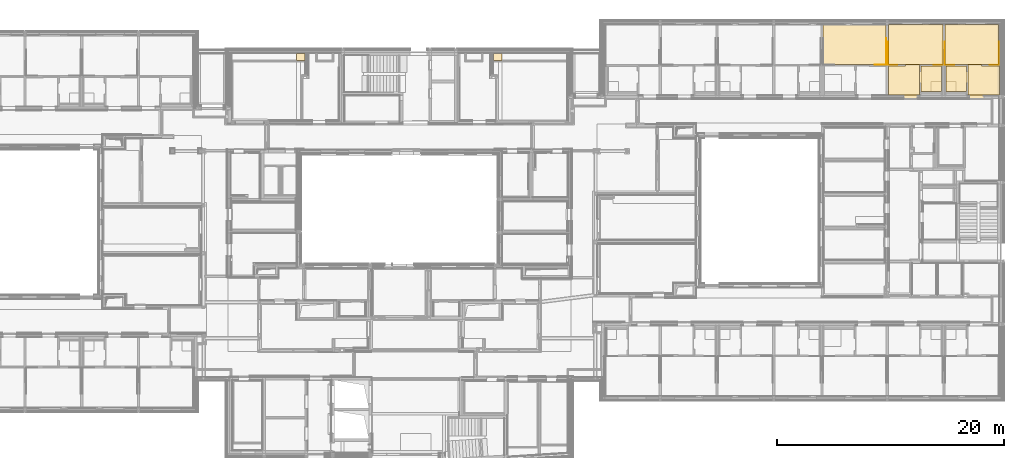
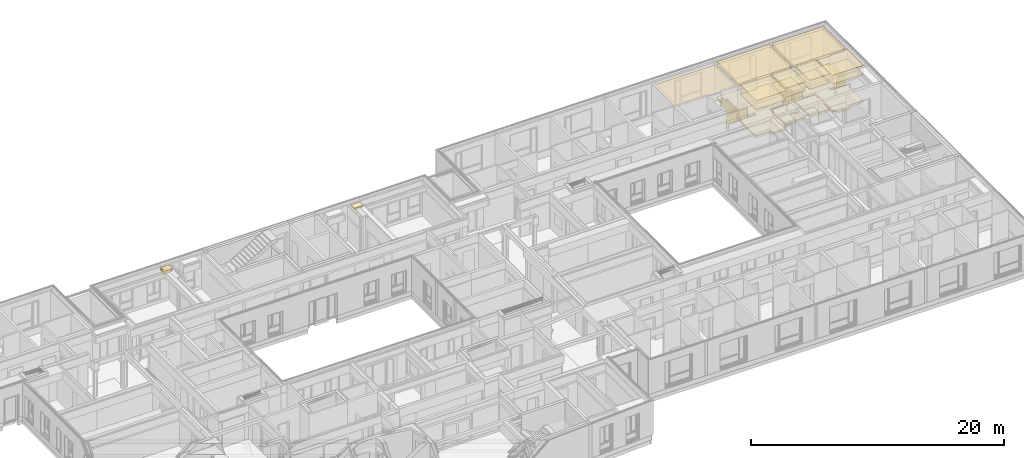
# One storey, part 190 of 207: 42 coverings.
"""IFC4 building model written with IfcOpenShell, lengths in metres."""

from ifc_helpers import new_model, entity, si_unit, converted_unit, derived_unit, frame, frame_2d, origin, origin_with_axes, place, context, subcontext, project, spatial, polyline, rectangle, outline, extrude, material, layer, layer_set, layer_usage, element, save


model = new_model("IFC4")

# Units and contexts
model_context = context("Model", 3, precision=1e-05, world=origin())
body_context = subcontext(model_context, "Body", "Model", "MODEL_VIEW")
ifc_project = project(units=[si_unit("LENGTHUNIT", "METRE"), si_unit("AREAUNIT", "SQUARE_METRE"), si_unit("VOLUMEUNIT", "CUBIC_METRE"), si_unit("MASSUNIT", "GRAM", prefix="KILO"), converted_unit("PLANEANGLEUNIT", "DEGREE", entity("IfcPlaneAngleMeasure", 0.0174532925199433), si_unit("PLANEANGLEUNIT", "RADIAN"), dimensions=[0, 0, 0, 0, 0, 0, 0]), derived_unit("THERMALTRANSMITTANCEUNIT", [(si_unit("POWERUNIT", "WATT"), 1), (si_unit("THERMODYNAMICTEMPERATUREUNIT", "KELVIN"), -1), (si_unit("LENGTHUNIT", "METRE"), -2)]), derived_unit("VOLUMETRICFLOWRATEUNIT", [(si_unit("LENGTHUNIT", "METRE"), 3), (converted_unit("TIMEUNIT", "hour", entity("IfcTimeMeasure", 3600.0), si_unit("TIMEUNIT", "SECOND"), dimensions=[0, 0, 1, 0, 0, 0, 0]), -1), (si_unit("LENGTHUNIT", "METRE"), -1)])], contexts=[model_context])

# Site, building, storey, space
site_placement = place(None, origin())
site = spatial("IfcSite", under=ifc_project, at=site_placement, Name="Psychiatrie Neubau Wunstorf", CompositionType="ELEMENT")
building_placement = place(site_placement, origin())
building = spatial("IfcBuilding", under=site, at=building_placement, Name="Neubau H2 Stationsgebäude", CompositionType="ELEMENT")
storey_placement = place(building_placement, frame((0.0, 0.0, -0.2)))
storey = spatial("IfcBuildingStorey", under=building, at=storey_placement, Name="H2 Ebene 0", CompositionType="ELEMENT", Elevation=-0.2)
space_1_placement = place(storey_placement, frame((101.175, 25.6995, 0.0)))
space_1 = spatial("IfcSpace", under=storey, at=space_1_placement, Name="WUN-H2-E00-074a", CompositionType="ELEMENT")

# Coverings
ifc_material_1 = material(Name="Fl1")
ifc_layer_1 = layer(ifc_material_1, 0.2)
ifc_layer_set_1 = layer_set([ifc_layer_1])
ifc_layer_usage_1 = layer_usage(ifc_layer_set_1, "AXIS3", "POSITIVE", 0.0)
covering_1_placement = place(space_1_placement, origin())
element("IfcCovering", 1, at=covering_1_placement, inside=space_1, material=ifc_layer_usage_1, Name="Fliesen", PredefinedType="FLOORING", context=body_context, shape_type="SweptSolid", body=[
    extrude(rectangle(XDim=0.125, YDim=1.01, at=frame_2d((-0.0625, -0.505), x_axis=(-1.0, 0.0))), frame((1.92500000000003, 1.76500000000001, 0.0), z_axis=(0.0, 0.0, 1.0), x_axis=(1.0, 0.0, 0.0)), (0.0, 0.0, 1.0), 0.2),
    extrude(outline(polyline([(0.0, 0.0), (1.8, 0.0), (1.80000000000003, 2.26500000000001), (0.0, 2.26500000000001), (0.0, 0.0)]), holes=[polyline([(0.0, 0.0), (0.0, 0.0), (0.0, 0.900000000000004), (0.900000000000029, 0.900000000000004), (0.900000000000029, 0.0), (0.0, 0.0)])]), origin_with_axes(), (0.0, 0.0, 1.0), 0.2),
])
ifc_material_2 = material(Name="Fl2")
ifc_layer_2 = layer(ifc_material_2, 0.2)
ifc_layer_set_2 = layer_set([ifc_layer_2])
ifc_layer_usage_2 = layer_usage(ifc_layer_set_2, "AXIS3", "POSITIVE", 0.0)
covering_2_placement = place(space_1_placement, origin())
element("IfcCovering", 2, at=covering_2_placement, inside=space_1, material=ifc_layer_usage_2, Name="Fliesen Mosaik", PredefinedType="FLOORING", context=body_context, shape_type="SweptSolid", body=[
    extrude(rectangle(XDim=0.9, YDim=0.9, at=frame_2d((0.45, 0.45), x_axis=(1.0, 0.0))), origin_with_axes(), (0.0, 0.0, 1.0), 0.2),
])
ifc_material_3 = material()
ifc_layer_3 = layer(ifc_material_3, 0.036)
ifc_layer_set_3 = layer_set([ifc_layer_3])
ifc_layer_usage_3 = layer_usage(ifc_layer_set_3, "AXIS3", "POSITIVE", 0.0)
covering_3_placement = place(space_1_placement, frame((0.0, 0.0, 3.6)))
element("IfcCovering", 3, at=covering_3_placement, inside=space_1, material=ifc_layer_usage_3, Name="Gipsfaserplatten 2-lagig (BSK)", PredefinedType="CEILING", context=body_context, shape_type="SweptSolid", body=[
    extrude(rectangle(XDim=1.8, YDim=2.26500000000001, at=frame_2d((-0.899999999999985, -1.1325), x_axis=(-1.0, 0.0))), frame((1.8, 0.0, 0.0), z_axis=(0.0, 0.0, -1.0), x_axis=(1.0, 0.0, 0.0)), (0.0, 0.0, 1.0), 0.036),
])
ifc_material_4 = material(Name="Installationshöhe")
ifc_layer_4 = layer(ifc_material_4, 0.764)
ifc_layer_set_4 = layer_set([ifc_layer_4])
ifc_layer_usage_4 = layer_usage(ifc_layer_set_4, "AXIS3", "POSITIVE", 0.0)
covering_4_placement = place(space_1_placement, frame((0.0, 0.0, 3.564)))
element("IfcCovering", 4, at=covering_4_placement, inside=space_1, material=ifc_layer_usage_4, Name="Gipsfaserplatten 2-lagig (BSK)", PredefinedType="CEILING", context=body_context, shape_type="SweptSolid", body=[
    extrude(rectangle(XDim=1.8, YDim=2.26500000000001, at=frame_2d((-0.899999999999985, -1.1325), x_axis=(-1.0, 0.0))), frame((1.8, 0.0, 0.0), z_axis=(0.0, 0.0, -1.0), x_axis=(1.0, 0.0, 0.0)), (0.0, 0.0, 1.0), 0.764),
])
ifc_material_5 = material(Name="B")
ifc_layer_5 = layer(ifc_material_5, 0.1)
ifc_layer_set_5 = layer_set([ifc_layer_5])
ifc_layer_usage_5 = layer_usage(ifc_layer_set_5, "AXIS3", "POSITIVE", 0.0)
covering_5_placement = place(space_1_placement, frame((0.0, 0.0, 2.8)))
element("IfcCovering", 5, at=covering_5_placement, inside=space_1, material=ifc_layer_usage_5, Name="Gipskarton, imprägniert", PredefinedType="CEILING", context=body_context, shape_type="SweptSolid", body=[
    extrude(rectangle(XDim=1.8, YDim=2.26500000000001, at=frame_2d((-0.899999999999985, -1.1325), x_axis=(-1.0, 0.0))), frame((1.8, 0.0, 0.0), z_axis=(0.0, 0.0, -1.0), x_axis=(1.0, 0.0, 0.0)), (0.0, 0.0, 1.0), 0.1),
])
ifc_material_6 = material(Name="D1")
ifc_layer_6 = layer(ifc_material_6, 0.001)
ifc_layer_set_6 = layer_set([ifc_layer_6])
ifc_layer_usage_6 = layer_usage(ifc_layer_set_6, "AXIS3", "POSITIVE", 0.0)
covering_6_placement = place(space_1_placement, frame((0.0, 0.0, 2.7)))
element("IfcCovering", 6, at=covering_6_placement, inside=space_1, material=ifc_layer_usage_6, Name="Gipsfaserplatten 2-lagig (BSK)", PredefinedType="CEILING", context=body_context, shape_type="SweptSolid", body=[
    extrude(rectangle(XDim=1.8, YDim=2.26500000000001, at=frame_2d((-0.899999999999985, -1.1325), x_axis=(-1.0, 0.0))), frame((1.8, 0.0, 0.0), z_axis=(0.0, 0.0, -1.0), x_axis=(1.0, 0.0, 0.0)), (0.0, 0.0, 1.0), 0.001),
])

# Space
space_2_placement = place(storey_placement, frame((98.975, 25.6995, 0.0)))
space_2 = spatial("IfcSpace", under=storey, at=space_2_placement, Name="WUN-H2-E00-073a", CompositionType="ELEMENT")

# Coverings
ifc_material_7 = material(Name="Fl1")
ifc_layer_7 = layer(ifc_material_7, 0.2)
ifc_layer_set_7 = layer_set([ifc_layer_7])
ifc_layer_usage_7 = layer_usage(ifc_layer_set_7, "AXIS3", "POSITIVE", 0.0)
covering_7_placement = place(space_2_placement, frame((-0.124999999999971, 0.0, 0.0)))
element("IfcCovering", 7, at=covering_7_placement, inside=space_2, material=ifc_layer_usage_7, Name="Fliesen", PredefinedType="FLOORING", context=body_context, shape_type="SweptSolid", body=[
    extrude(rectangle(XDim=0.125, YDim=1.01, at=frame_2d((0.0625, 0.505), x_axis=(1.0, 0.0))), frame((0.0, 0.755000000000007, 0.0), z_axis=(0.0, 0.0, 1.0), x_axis=(1.0, 0.0, 0.0)), (0.0, 0.0, 1.0), 0.2),
    extrude(outline(polyline([(0.0, 0.0), (0.900000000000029, 0.0), (0.900000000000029, 0.900000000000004), (1.80000000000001, 0.900000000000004), (1.80000000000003, 2.26500000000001), (0.0, 2.26500000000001), (0.0, 0.0)])), frame((0.124999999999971, 0.0, 0.0), z_axis=(0.0, 0.0, 1.0), x_axis=(1.0, 0.0, 0.0)), (0.0, 0.0, 1.0), 0.2),
])
ifc_material_8 = material(Name="Fl2")
ifc_layer_8 = layer(ifc_material_8, 0.2)
ifc_layer_set_8 = layer_set([ifc_layer_8])
ifc_layer_usage_8 = layer_usage(ifc_layer_set_8, "AXIS3", "POSITIVE", 0.0)
covering_8_placement = place(space_2_placement, frame((0.900000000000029, 0.0, 0.0)))
element("IfcCovering", 8, at=covering_8_placement, inside=space_2, material=ifc_layer_usage_8, Name="Fliesen Mosaik", PredefinedType="FLOORING", context=body_context, shape_type="SweptSolid", body=[
    extrude(rectangle(XDim=0.9, YDim=0.9, at=frame_2d((-0.45, 0.45), x_axis=(0.0, 1.0))), frame((0.9, 0.0, 0.0), z_axis=(0.0, 0.0, 1.0), x_axis=(1.0, 0.0, 0.0)), (0.0, 0.0, 1.0), 0.2),
])
ifc_material_9 = material()
ifc_layer_9 = layer(ifc_material_9, 0.036)
ifc_layer_set_9 = layer_set([ifc_layer_9])
ifc_layer_usage_9 = layer_usage(ifc_layer_set_9, "AXIS3", "POSITIVE", 0.0)
covering_9_placement = place(space_2_placement, frame((0.0, 0.0, 3.6)))
element("IfcCovering", 9, at=covering_9_placement, inside=space_2, material=ifc_layer_usage_9, Name="Gipsfaserplatten 2-lagig (BSK)", PredefinedType="CEILING", context=body_context, shape_type="SweptSolid", body=[
    extrude(rectangle(XDim=1.8, YDim=2.26500000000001, at=frame_2d((0.899999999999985, 1.1325), x_axis=(1.0, 0.0))), frame((0.0, 2.26500000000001, 0.0), z_axis=(0.0, 0.0, -1.0), x_axis=(1.0, 0.0, 0.0)), (0.0, 0.0, 1.0), 0.036),
])
ifc_material_10 = material(Name="Installationshöhe")
ifc_layer_10 = layer(ifc_material_10, 0.764)
ifc_layer_set_10 = layer_set([ifc_layer_10])
ifc_layer_usage_10 = layer_usage(ifc_layer_set_10, "AXIS3", "POSITIVE", 0.0)
covering_10_placement = place(space_2_placement, frame((0.0, 0.0, 3.564)))
element("IfcCovering", 10, at=covering_10_placement, inside=space_2, material=ifc_layer_usage_10, Name="Gipsfaserplatten 2-lagig (BSK)", PredefinedType="CEILING", context=body_context, shape_type="SweptSolid", body=[
    extrude(rectangle(XDim=1.8, YDim=2.26500000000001, at=frame_2d((0.899999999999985, 1.1325), x_axis=(1.0, 0.0))), frame((0.0, 2.26500000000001, 0.0), z_axis=(0.0, 0.0, -1.0), x_axis=(1.0, 0.0, 0.0)), (0.0, 0.0, 1.0), 0.764),
])
ifc_material_11 = material(Name="B")
ifc_layer_11 = layer(ifc_material_11, 0.1)
ifc_layer_set_11 = layer_set([ifc_layer_11])
ifc_layer_usage_11 = layer_usage(ifc_layer_set_11, "AXIS3", "POSITIVE", 0.0)
covering_11_placement = place(space_2_placement, frame((0.0, 0.0, 2.8)))
element("IfcCovering", 11, at=covering_11_placement, inside=space_2, material=ifc_layer_usage_11, Name="Gipskarton, imprägniert", PredefinedType="CEILING", context=body_context, shape_type="SweptSolid", body=[
    extrude(rectangle(XDim=1.8, YDim=2.26500000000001, at=frame_2d((0.899999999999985, 1.1325), x_axis=(1.0, 0.0))), frame((0.0, 2.26500000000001, 0.0), z_axis=(0.0, 0.0, -1.0), x_axis=(1.0, 0.0, 0.0)), (0.0, 0.0, 1.0), 0.1),
])
ifc_material_12 = material(Name="D1")
ifc_layer_12 = layer(ifc_material_12, 0.001)
ifc_layer_set_12 = layer_set([ifc_layer_12])
ifc_layer_usage_12 = layer_usage(ifc_layer_set_12, "AXIS3", "POSITIVE", 0.0)
covering_12_placement = place(space_2_placement, frame((0.0, 0.0, 2.7)))
element("IfcCovering", 12, at=covering_12_placement, inside=space_2, material=ifc_layer_usage_12, Name="Gipsfaserplatten 2-lagig (BSK)", PredefinedType="CEILING", context=body_context, shape_type="SweptSolid", body=[
    extrude(rectangle(XDim=1.8, YDim=2.26500000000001, at=frame_2d((0.899999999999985, 1.1325), x_axis=(1.0, 0.0))), frame((0.0, 2.26500000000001, 0.0), z_axis=(0.0, 0.0, -1.0), x_axis=(1.0, 0.0, 0.0)), (0.0, 0.0, 1.0), 0.001),
])

# Space
space_3_placement = place(storey_placement, frame((101.1, 25.3895, 0.0)))
space_3 = spatial("IfcSpace", under=storey, at=space_3_placement, Name="WUN-H2-E00-074", CompositionType="ELEMENT")

# Coverings
ifc_material_13 = material(Name="84")
ifc_layer_13 = layer(ifc_material_13, 0.001)
ifc_layer_set_13 = layer_set([ifc_layer_13])
ifc_layer_usage_13 = layer_usage(ifc_layer_set_13, "AXIS3", "POSITIVE", 0.0)
covering_13_placement = place(space_3_placement, frame((0.0, 2.69999999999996, 0.1)))
element("IfcCovering", 13, at=covering_13_placement, inside=space_3, material=ifc_layer_usage_13, Name="Acrobyn", PredefinedType="CLADDING", context=body_context, shape_type="SweptSolid", body=[
    extrude(rectangle(XDim=2.0, YDim=0.9, at=frame_2d((1.0, -0.45), x_axis=(1.0, 0.0))), frame((0.0, 2.0, 0.0), z_axis=(1.0, 0.0, 0.0), x_axis=(0.0, -1.0, 0.0)), (0.0, 0.0, 1.0), 0.001),
    extrude(rectangle(XDim=0.8, YDim=0.9, at=frame_2d((0.4, -0.45), x_axis=(1.0, 0.0))), frame((0.0, 0.0, 0.0), z_axis=(0.0, 1.0, 0.0), x_axis=(1.0, 0.0, 0.0)), (0.0, 0.0, 1.0), 0.001),
])
ifc_material_14 = material(Name="84")
ifc_layer_14 = layer(ifc_material_14, 0.001)
ifc_layer_set_14 = layer_set([ifc_layer_14])
ifc_layer_usage_14 = layer_usage(ifc_layer_set_14, "AXIS3", "POSITIVE", 0.0)
covering_14_placement = place(space_3_placement, frame((3.914, 2.69999999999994, 0.1)))
element("IfcCovering", 14, at=covering_14_placement, inside=space_3, material=ifc_layer_usage_14, Name="Acrobyn", PredefinedType="CLADDING", context=body_context, shape_type="SweptSolid", body=[
    extrude(rectangle(XDim=0.9, YDim=2.0, at=frame_2d((-1.0, -0.45), x_axis=(0.0, -1.0))), frame((0.8, 2.0, 0.0), z_axis=(-1.0, 0.0, 0.0), x_axis=(0.0, 1.0, 0.0)), (0.0, 0.0, 1.0), 0.001),
    extrude(rectangle(XDim=0.9, YDim=0.8, at=frame_2d((-0.4, -0.45), x_axis=(0.0, -1.0))), frame((0.8, 0.0, 0.0), z_axis=(0.0, 1.0, 0.0), x_axis=(1.0, 0.0, 0.0)), (0.0, 0.0, 1.0), 0.001),
])
ifc_material_15 = material(Name="Ku1")
ifc_layer_15 = layer(ifc_material_15, 0.2)
ifc_layer_set_15 = layer_set([ifc_layer_15])
ifc_layer_usage_15 = layer_usage(ifc_layer_set_15, "AXIS3", "POSITIVE", 0.0)
covering_15_placement = place(space_3_placement, frame((0.0, -0.272000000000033, 0.0)))
element("IfcCovering", 15, at=covering_15_placement, inside=space_3, material=ifc_layer_usage_15, Name="PVC Bahnenware Holzoptik", PredefinedType="FLOORING", context=body_context, shape_type="SweptSolid", body=[
    extrude(rectangle(XDim=0.272, YDim=1.26, at=frame_2d((0.63, -0.136), x_axis=(0.0, -1.0))), frame((2.15, 0.272, 0.0), z_axis=(0.0, 0.0, 1.0), x_axis=(1.0, 0.0, 0.0)), (0.0, 0.0, 1.0), 0.2),
    extrude(outline(polyline([(2.0, 0.0), (4.78899999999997, 0.0), (4.789, 2.54999999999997), (3.214, 2.54999999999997), (3.214, 2.69999999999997), (4.714, 2.69999999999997), (4.714, 6.22449999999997), (0.0, 6.22449999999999), (0.0, 2.69999999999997), (2.0, 2.69999999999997), (2.0, 0.0)])), frame((0.0, 0.272000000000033, 0.0), z_axis=(0.0, 0.0, 1.0), x_axis=(1.0, 0.0, 0.0)), (0.0, 0.0, 1.0), 0.2),
])
ifc_material_16 = material()
ifc_layer_16 = layer(ifc_material_16, 0.036)
ifc_layer_set_16 = layer_set([ifc_layer_16])
ifc_layer_usage_16 = layer_usage(ifc_layer_set_16, "AXIS3", "POSITIVE", 0.0)
covering_16_placement = place(space_3_placement, frame((2.0, 0.0, 3.6)))
element("IfcCovering", 16, at=covering_16_placement, inside=space_3, material=ifc_layer_usage_16, Name="Gipsfaserplatten 2-lagig (BSK)", PredefinedType="CEILING", context=body_context, shape_type="SweptSolid", body=[
    extrude(outline(polyline([(2.78899999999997, 2.69999999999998), (0.0, 2.69999999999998), (0.0, 0.0), (1.214, 0.0), (1.214, 0.15), (2.789, 0.15), (2.78899999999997, 2.69999999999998)])), frame((0.0, 2.69999999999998, 0.0), z_axis=(0.0, 0.0, -1.0), x_axis=(1.0, 0.0, 0.0)), (0.0, 0.0, 1.0), 0.036),
])
ifc_material_17 = material(Name="Installationshöhe")
ifc_layer_17 = layer(ifc_material_17, 0.764)
ifc_layer_set_17 = layer_set([ifc_layer_17])
ifc_layer_usage_17 = layer_usage(ifc_layer_set_17, "AXIS3", "POSITIVE", 0.0)
covering_17_placement = place(space_3_placement, frame((2.0, 0.0, 3.564)))
element("IfcCovering", 17, at=covering_17_placement, inside=space_3, material=ifc_layer_usage_17, Name="Gipsfaserplatten 2-lagig (BSK)", PredefinedType="CEILING", context=body_context, shape_type="SweptSolid", body=[
    extrude(outline(polyline([(2.78899999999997, 2.69999999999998), (0.0, 2.69999999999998), (0.0, 0.0), (1.214, 0.0), (1.214, 0.15), (2.789, 0.15), (2.78899999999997, 2.69999999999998)])), frame((0.0, 2.69999999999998, 0.0), z_axis=(0.0, 0.0, -1.0), x_axis=(1.0, 0.0, 0.0)), (0.0, 0.0, 1.0), 0.764),
])
ifc_material_18 = material(Name="A1")
ifc_layer_18 = layer(ifc_material_18, 0.1)
ifc_layer_set_18 = layer_set([ifc_layer_18])
ifc_layer_usage_18 = layer_usage(ifc_layer_set_18, "AXIS3", "POSITIVE", 0.0)
covering_18_placement = place(space_3_placement, frame((2.0, 0.0, 2.8)))
element("IfcCovering", 18, at=covering_18_placement, inside=space_3, material=ifc_layer_usage_18, Name="Gipsfaserplatten 2-lagig (BSK)", PredefinedType="CEILING", context=body_context, shape_type="SweptSolid", body=[
    extrude(outline(polyline([(2.78899999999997, 2.69999999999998), (0.0, 2.69999999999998), (0.0, 0.0), (1.214, 0.0), (1.214, 0.15), (2.789, 0.15), (2.78899999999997, 2.69999999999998)])), frame((0.0, 2.69999999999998, 0.0), z_axis=(0.0, 0.0, -1.0), x_axis=(1.0, 0.0, 0.0)), (0.0, 0.0, 1.0), 0.1),
])
ifc_material_19 = material(Name="D1")
ifc_layer_19 = layer(ifc_material_19, 0.001)
ifc_layer_set_19 = layer_set([ifc_layer_19])
ifc_layer_usage_19 = layer_usage(ifc_layer_set_19, "AXIS3", "POSITIVE", 0.0)
covering_19_placement = place(space_3_placement, frame((2.0, 0.0, 2.7)))
element("IfcCovering", 19, at=covering_19_placement, inside=space_3, material=ifc_layer_usage_19, Name="Gipsfaserplatten 2-lagig (BSK)", PredefinedType="CEILING", context=body_context, shape_type="SweptSolid", body=[
    extrude(outline(polyline([(2.78899999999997, 2.69999999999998), (0.0, 2.69999999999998), (0.0, 0.0), (1.214, 0.0), (1.214, 0.15), (2.789, 0.15), (2.78899999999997, 2.69999999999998)])), frame((0.0, 2.69999999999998, 0.0), z_axis=(0.0, 0.0, -1.0), x_axis=(1.0, 0.0, 0.0)), (0.0, 0.0, 1.0), 0.001),
])
ifc_material_20 = material()
ifc_layer_20 = layer(ifc_material_20, 0.036)
ifc_layer_set_20 = layer_set([ifc_layer_20])
ifc_layer_usage_20 = layer_usage(ifc_layer_set_20, "AXIS3", "POSITIVE", 0.0)
covering_20_placement = place(space_3_placement, frame((0.0, 2.69999999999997, 3.6)))
element("IfcCovering", 20, at=covering_20_placement, inside=space_3, material=ifc_layer_usage_20, Name="Gipsfaserplatten 2-lagig (BSK)", PredefinedType="CEILING", context=body_context, shape_type="SweptSolid", body=[
    extrude(rectangle(XDim=3.52450000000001, YDim=4.714, at=frame_2d((2.357, -1.76225), x_axis=(0.0, -1.0))), frame((0.0, 0.0, 0.0), z_axis=(0.0, 0.0, -1.0), x_axis=(1.0, 0.0, 0.0)), (0.0, 0.0, 1.0), 0.036),
])
ifc_material_21 = material(Name="Installationshöhe")
ifc_layer_21 = layer(ifc_material_21, 0.114)
ifc_layer_set_21 = layer_set([ifc_layer_21])
ifc_layer_usage_21 = layer_usage(ifc_layer_set_21, "AXIS3", "POSITIVE", 0.0)
covering_21_placement = place(space_3_placement, frame((0.0, 2.69999999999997, 3.564)))
element("IfcCovering", 21, at=covering_21_placement, inside=space_3, material=ifc_layer_usage_21, Name="Gipsfaserplatten 2-lagig (BSK)", PredefinedType="CEILING", context=body_context, shape_type="SweptSolid", body=[
    extrude(rectangle(XDim=3.52450000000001, YDim=4.714, at=frame_2d((2.357, -1.76225), x_axis=(0.0, -1.0))), frame((0.0, 0.0, 0.0), z_axis=(0.0, 0.0, -1.0), x_axis=(1.0, 0.0, 0.0)), (0.0, 0.0, 1.0), 0.114),
])
ifc_material_22 = material(Name="A1")
ifc_layer_22 = layer(ifc_material_22, 0.1)
ifc_layer_set_22 = layer_set([ifc_layer_22])
ifc_layer_usage_22 = layer_usage(ifc_layer_set_22, "AXIS3", "POSITIVE", 0.0)
covering_22_placement = place(space_3_placement, frame((0.0, 2.69999999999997, 3.45)))
element("IfcCovering", 22, at=covering_22_placement, inside=space_3, material=ifc_layer_usage_22, Name="Gipsfaserplatten 2-lagig (BSK)", PredefinedType="CEILING", context=body_context, shape_type="SweptSolid", body=[
    extrude(rectangle(XDim=3.52450000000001, YDim=4.714, at=frame_2d((2.357, -1.76225), x_axis=(0.0, -1.0))), frame((0.0, 0.0, 0.0), z_axis=(0.0, 0.0, -1.0), x_axis=(1.0, 0.0, 0.0)), (0.0, 0.0, 1.0), 0.1),
])
ifc_material_23 = material(Name="D1")
ifc_layer_23 = layer(ifc_material_23, 0.001)
ifc_layer_set_23 = layer_set([ifc_layer_23])
ifc_layer_usage_23 = layer_usage(ifc_layer_set_23, "AXIS3", "POSITIVE", 0.0)
covering_23_placement = place(space_3_placement, frame((0.0, 2.69999999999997, 3.35)))
element("IfcCovering", 23, at=covering_23_placement, inside=space_3, material=ifc_layer_usage_23, Name="Gipsfaserplatten 2-lagig (BSK)", PredefinedType="CEILING", context=body_context, shape_type="SweptSolid", body=[
    extrude(rectangle(XDim=3.52450000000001, YDim=4.714, at=frame_2d((2.357, -1.76225), x_axis=(0.0, -1.0))), frame((0.0, 0.0, 0.0), z_axis=(0.0, 0.0, -1.0), x_axis=(1.0, 0.0, 0.0)), (0.0, 0.0, 1.0), 0.001),
])

# Space
space_4_placement = place(storey_placement, frame((90.35, 25.3895, 0.0)))
space_4 = spatial("IfcSpace", under=storey, at=space_4_placement, Name="WUN-H2-E00-072", CompositionType="ELEMENT")

# Coverings
ifc_material_24 = material(Name="84")
ifc_layer_24 = layer(ifc_material_24, 0.001)
ifc_layer_set_24 = layer_set([ifc_layer_24])
ifc_layer_usage_24 = layer_usage(ifc_layer_set_24, "AXIS3", "POSITIVE", 0.0)
covering_24_placement = place(space_4_placement, frame((4.54999999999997, 2.69999999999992, 0.1)))
element("IfcCovering", 24, at=covering_24_placement, inside=space_4, material=ifc_layer_usage_24, Name="Acrobyn", PredefinedType="CLADDING", context=body_context, shape_type="SweptSolid", body=[
    extrude(rectangle(XDim=0.9, YDim=2.3, at=frame_2d((-1.15, -0.45), x_axis=(0.0, -1.0))), frame((1.0, 2.3, 0.0), z_axis=(-1.0, 0.0, 0.0), x_axis=(0.0, 1.0, 0.0)), (0.0, 0.0, 1.0), 0.001),
    extrude(rectangle(XDim=0.9, YDim=1.0, at=frame_2d((-0.5, -0.45), x_axis=(0.0, -1.0))), frame((1.0, 0.0, 0.0), z_axis=(0.0, 1.0, 0.0), x_axis=(1.0, 0.0, 0.0)), (0.0, 0.0, 1.0), 0.001),
])
ifc_material_25 = material(Name="D1")
ifc_layer_25 = layer(ifc_material_25, 0.001)
ifc_layer_set_25 = layer_set([ifc_layer_25])
ifc_layer_usage_25 = layer_usage(ifc_layer_set_25, "AXIS3", "POSITIVE", 0.0)
covering_25_placement = place(space_4_placement, frame((0.0, 2.69999999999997, 3.35)))
element("IfcCovering", 25, at=covering_25_placement, inside=space_4, material=ifc_layer_usage_25, Name="Gipsfaserplatten 2-lagig (BSK)", PredefinedType="CEILING", context=body_context, shape_type="SweptSolid", body=[
    extrude(rectangle(XDim=3.52450000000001, YDim=5.55, at=frame_2d((2.775, -1.76225000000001), x_axis=(0.0, -1.0))), frame((0.0, 0.0, 0.0), z_axis=(0.0, 0.0, -1.0), x_axis=(1.0, 0.0, 0.0)), (0.0, 0.0, 1.0), 0.001),
])

# Space
space_5_placement = place(storey_placement, frame((96.1, 25.3895, 0.0)))
space_5 = spatial("IfcSpace", under=storey, at=space_5_placement, Name="WUN-H2-E00-073", CompositionType="ELEMENT")

# Coverings
ifc_material_26 = material(Name="84")
ifc_layer_26 = layer(ifc_material_26, 0.001)
ifc_layer_set_26 = layer_set([ifc_layer_26])
ifc_layer_usage_26 = layer_usage(ifc_layer_set_26, "AXIS3", "POSITIVE", 0.0)
covering_26_placement = place(space_5_placement, frame((0.0, 2.69999999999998, 0.1)))
element("IfcCovering", 26, at=covering_26_placement, inside=space_5, material=ifc_layer_usage_26, Name="Acrobyn", PredefinedType="CLADDING", context=body_context, shape_type="SweptSolid", body=[
    extrude(rectangle(XDim=2.0, YDim=0.9, at=frame_2d((1.0, -0.45), x_axis=(1.0, 0.0))), frame((0.0, 2.0, 0.0), z_axis=(1.0, 0.0, 0.0), x_axis=(0.0, -1.0, 0.0)), (0.0, 0.0, 1.0), 0.001),
    extrude(rectangle(XDim=0.8, YDim=0.9, at=frame_2d((0.4, -0.45), x_axis=(1.0, 0.0))), frame((0.0, 0.0, 0.0), z_axis=(0.0, 1.0, 0.0), x_axis=(1.0, 0.0, 0.0)), (0.0, 0.0, 1.0), 0.001),
])
ifc_material_27 = material(Name="84")
ifc_layer_27 = layer(ifc_material_27, 0.001)
ifc_layer_set_27 = layer_set([ifc_layer_27])
ifc_layer_usage_27 = layer_usage(ifc_layer_set_27, "AXIS3", "POSITIVE", 0.0)
covering_27_placement = place(space_5_placement, frame((4.0, 2.69999999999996, 0.1)))
element("IfcCovering", 27, at=covering_27_placement, inside=space_5, material=ifc_layer_usage_27, Name="Acrobyn", PredefinedType="CLADDING", context=body_context, shape_type="SweptSolid", body=[
    extrude(rectangle(XDim=0.9, YDim=2.0, at=frame_2d((-1.0, -0.45), x_axis=(0.0, -1.0))), frame((0.8, 2.0, 0.0), z_axis=(-1.0, 0.0, 0.0), x_axis=(0.0, 1.0, 0.0)), (0.0, 0.0, 1.0), 0.001),
    extrude(rectangle(XDim=0.9, YDim=0.8, at=frame_2d((-0.4, -0.45), x_axis=(0.0, -1.0))), frame((0.8, 0.0, 0.0), z_axis=(0.0, 1.0, 0.0), x_axis=(1.0, 0.0, 0.0)), (0.0, 0.0, 1.0), 0.001),
])
ifc_material_28 = material(Name="Ku1")
ifc_layer_28 = layer(ifc_material_28, 0.2)
ifc_layer_set_28 = layer_set([ifc_layer_28])
ifc_layer_usage_28 = layer_usage(ifc_layer_set_28, "AXIS3", "POSITIVE", 0.0)
covering_28_placement = place(space_5_placement, frame((0.0, -0.272000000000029, 0.0)))
element("IfcCovering", 28, at=covering_28_placement, inside=space_5, material=ifc_layer_usage_28, Name="PVC Bahnenware Holzoptik", PredefinedType="FLOORING", context=body_context, shape_type="SweptSolid", body=[
    extrude(rectangle(XDim=0.272, YDim=1.26, at=frame_2d((0.63, -0.136), x_axis=(0.0, -1.0))), frame((1.34, 0.272, 0.0), z_axis=(0.0, 0.0, 1.0), x_axis=(1.0, 0.0, 0.0)), (0.0, 0.0, 1.0), 0.2),
    extrude(outline(polyline([(1.49999999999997, 2.55000000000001), (0.0, 2.55000000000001), (0.0, 0.0), (2.75, 0.0), (2.75, 2.69999999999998), (4.8, 2.69999999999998), (4.8, 6.22449999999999), (0.0, 6.22449999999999), (0.0, 2.70000000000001), (1.49999999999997, 2.70000000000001), (1.49999999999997, 2.55000000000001)])), frame((0.0, 0.272000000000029, 0.0), z_axis=(0.0, 0.0, 1.0), x_axis=(1.0, 0.0, 0.0)), (0.0, 0.0, 1.0), 0.2),
])
ifc_material_29 = material()
ifc_layer_29 = layer(ifc_material_29, 0.036)
ifc_layer_set_29 = layer_set([ifc_layer_29])
ifc_layer_usage_29 = layer_usage(ifc_layer_set_29, "AXIS3", "POSITIVE", 0.0)
covering_29_placement = place(space_5_placement, frame((0.0, 0.0, 3.6)))
element("IfcCovering", 29, at=covering_29_placement, inside=space_5, material=ifc_layer_usage_29, Name="Gipsfaserplatten 2-lagig (BSK)", PredefinedType="CEILING", context=body_context, shape_type="SweptSolid", body=[
    extrude(outline(polyline([(2.75, 2.7), (0.0, 2.7), (0.0, 0.15), (1.49999999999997, 0.15), (1.49999999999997, 0.0), (2.75, 0.0), (2.75, 2.7)])), frame((0.0, 2.7, 0.0), z_axis=(0.0, 0.0, -1.0), x_axis=(1.0, 0.0, 0.0)), (0.0, 0.0, 1.0), 0.036),
])
ifc_material_30 = material(Name="Installationshöhe")
ifc_layer_30 = layer(ifc_material_30, 0.764)
ifc_layer_set_30 = layer_set([ifc_layer_30])
ifc_layer_usage_30 = layer_usage(ifc_layer_set_30, "AXIS3", "POSITIVE", 0.0)
covering_30_placement = place(space_5_placement, frame((0.0, 0.0, 3.564)))
element("IfcCovering", 30, at=covering_30_placement, inside=space_5, material=ifc_layer_usage_30, Name="Gipsfaserplatten 2-lagig (BSK)", PredefinedType="CEILING", context=body_context, shape_type="SweptSolid", body=[
    extrude(outline(polyline([(2.75, 2.7), (0.0, 2.7), (0.0, 0.15), (1.49999999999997, 0.15), (1.49999999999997, 0.0), (2.75, 0.0), (2.75, 2.7)])), frame((0.0, 2.7, 0.0), z_axis=(0.0, 0.0, -1.0), x_axis=(1.0, 0.0, 0.0)), (0.0, 0.0, 1.0), 0.764),
])
ifc_material_31 = material(Name="A1")
ifc_layer_31 = layer(ifc_material_31, 0.1)
ifc_layer_set_31 = layer_set([ifc_layer_31])
ifc_layer_usage_31 = layer_usage(ifc_layer_set_31, "AXIS3", "POSITIVE", 0.0)
covering_31_placement = place(space_5_placement, frame((0.0, 0.0, 2.8)))
element("IfcCovering", 31, at=covering_31_placement, inside=space_5, material=ifc_layer_usage_31, Name="Gipsfaserplatten 2-lagig (BSK)", PredefinedType="CEILING", context=body_context, shape_type="SweptSolid", body=[
    extrude(outline(polyline([(2.75, 2.7), (0.0, 2.7), (0.0, 0.15), (1.49999999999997, 0.15), (1.49999999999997, 0.0), (2.75, 0.0), (2.75, 2.7)])), frame((0.0, 2.7, 0.0), z_axis=(0.0, 0.0, -1.0), x_axis=(1.0, 0.0, 0.0)), (0.0, 0.0, 1.0), 0.1),
])
ifc_material_32 = material(Name="D1")
ifc_layer_32 = layer(ifc_material_32, 0.001)
ifc_layer_set_32 = layer_set([ifc_layer_32])
ifc_layer_usage_32 = layer_usage(ifc_layer_set_32, "AXIS3", "POSITIVE", 0.0)
covering_32_placement = place(space_5_placement, frame((0.0, 0.0, 2.7)))
element("IfcCovering", 32, at=covering_32_placement, inside=space_5, material=ifc_layer_usage_32, Name="Gipsfaserplatten 2-lagig (BSK)", PredefinedType="CEILING", context=body_context, shape_type="SweptSolid", body=[
    extrude(outline(polyline([(2.75, 2.7), (0.0, 2.7), (0.0, 0.15), (1.49999999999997, 0.15), (1.49999999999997, 0.0), (2.75, 0.0), (2.75, 2.7)])), frame((0.0, 2.7, 0.0), z_axis=(0.0, 0.0, -1.0), x_axis=(1.0, 0.0, 0.0)), (0.0, 0.0, 1.0), 0.001),
])
ifc_material_33 = material()
ifc_layer_33 = layer(ifc_material_33, 0.036)
ifc_layer_set_33 = layer_set([ifc_layer_33])
ifc_layer_usage_33 = layer_usage(ifc_layer_set_33, "AXIS3", "POSITIVE", 0.0)
covering_33_placement = place(space_5_placement, frame((0.0, 2.69999999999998, 3.6)))
element("IfcCovering", 33, at=covering_33_placement, inside=space_5, material=ifc_layer_usage_33, Name="Gipsfaserplatten 2-lagig (BSK)", PredefinedType="CEILING", context=body_context, shape_type="SweptSolid", body=[
    extrude(rectangle(XDim=3.52449999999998, YDim=4.8, at=frame_2d((2.4, -1.76224999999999), x_axis=(0.0, -1.0))), frame((0.0, 0.0, 0.0), z_axis=(0.0, 0.0, -1.0), x_axis=(1.0, 0.0, 0.0)), (0.0, 0.0, 1.0), 0.036),
])
ifc_material_34 = material(Name="Installationshöhe")
ifc_layer_34 = layer(ifc_material_34, 0.114)
ifc_layer_set_34 = layer_set([ifc_layer_34])
ifc_layer_usage_34 = layer_usage(ifc_layer_set_34, "AXIS3", "POSITIVE", 0.0)
covering_34_placement = place(space_5_placement, frame((0.0, 2.69999999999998, 3.564)))
element("IfcCovering", 34, at=covering_34_placement, inside=space_5, material=ifc_layer_usage_34, Name="Gipsfaserplatten 2-lagig (BSK)", PredefinedType="CEILING", context=body_context, shape_type="SweptSolid", body=[
    extrude(rectangle(XDim=3.52449999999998, YDim=4.8, at=frame_2d((2.4, -1.76224999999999), x_axis=(0.0, -1.0))), frame((0.0, 0.0, 0.0), z_axis=(0.0, 0.0, -1.0), x_axis=(1.0, 0.0, 0.0)), (0.0, 0.0, 1.0), 0.114),
])
ifc_material_35 = material(Name="A1")
ifc_layer_35 = layer(ifc_material_35, 0.1)
ifc_layer_set_35 = layer_set([ifc_layer_35])
ifc_layer_usage_35 = layer_usage(ifc_layer_set_35, "AXIS3", "POSITIVE", 0.0)
covering_35_placement = place(space_5_placement, frame((0.0, 2.69999999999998, 3.45)))
element("IfcCovering", 35, at=covering_35_placement, inside=space_5, material=ifc_layer_usage_35, Name="Gipsfaserplatten 2-lagig (BSK)", PredefinedType="CEILING", context=body_context, shape_type="SweptSolid", body=[
    extrude(rectangle(XDim=3.52449999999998, YDim=4.8, at=frame_2d((2.4, -1.76224999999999), x_axis=(0.0, -1.0))), frame((0.0, 0.0, 0.0), z_axis=(0.0, 0.0, -1.0), x_axis=(1.0, 0.0, 0.0)), (0.0, 0.0, 1.0), 0.1),
])
ifc_material_36 = material(Name="D1")
ifc_layer_36 = layer(ifc_material_36, 0.001)
ifc_layer_set_36 = layer_set([ifc_layer_36])
ifc_layer_usage_36 = layer_usage(ifc_layer_set_36, "AXIS3", "POSITIVE", 0.0)
covering_36_placement = place(space_5_placement, frame((0.0, 2.69999999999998, 3.35)))
element("IfcCovering", 36, at=covering_36_placement, inside=space_5, material=ifc_layer_usage_36, Name="Gipsfaserplatten 2-lagig (BSK)", PredefinedType="CEILING", context=body_context, shape_type="SweptSolid", body=[
    extrude(rectangle(XDim=3.52449999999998, YDim=4.8, at=frame_2d((2.4, -1.76224999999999), x_axis=(0.0, -1.0))), frame((0.0, 0.0, 0.0), z_axis=(0.0, 0.0, -1.0), x_axis=(1.0, 0.0, 0.0)), (0.0, 0.0, 1.0), 0.001),
])

# Space
space_6_placement = place(storey_placement, frame((38.244, 23.1539990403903, 0.0)))
space_6 = spatial("IfcSpace", under=storey, at=space_6_placement, Name="WUN-H2-E00-008", CompositionType="ELEMENT")

# Coverings
ifc_material_37 = material()
ifc_layer_37 = layer(ifc_material_37, 0.036)
ifc_layer_set_37 = layer_set([ifc_layer_37])
ifc_layer_usage_37 = layer_usage(ifc_layer_set_37, "AXIS3", "POSITIVE", 0.0)
covering_37_placement = place(space_6_placement, frame((5.69350000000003, 5.31000065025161, 3.56)))
element("IfcCovering", 37, at=covering_37_placement, inside=space_6, material=ifc_layer_usage_37, Name="Gipsfaserplatten 2-lagig (BSK)", PredefinedType="CEILING", context=body_context, shape_type="SweptSolid", body=[
    extrude(rectangle(XDim=0.59999999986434, YDim=0.762499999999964, at=frame_2d((-0.381249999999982, 0.29999999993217), x_axis=(0.0, 1.0))), frame((0.762499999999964, 0.59999999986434, 0.0), z_axis=(0.0, 0.0, -1.0), x_axis=(1.0, 0.0, 0.0)), (0.0, 0.0, 1.0), 0.036),
])
ifc_material_38 = material(Name="Installationshöhe")
ifc_layer_38 = layer(ifc_material_38, 0.124)
ifc_layer_set_38 = layer_set([ifc_layer_38])
ifc_layer_usage_38 = layer_usage(ifc_layer_set_38, "AXIS3", "POSITIVE", 0.0)
covering_38_placement = place(space_6_placement, frame((5.69350000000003, 5.31000065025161, 3.524)))
element("IfcCovering", 38, at=covering_38_placement, inside=space_6, material=ifc_layer_usage_38, Name="Gipsfaserplatten 2-lagig (BSK)", PredefinedType="CEILING", context=body_context, shape_type="SweptSolid", body=[
    extrude(rectangle(XDim=0.59999999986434, YDim=0.762499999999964, at=frame_2d((-0.381249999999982, 0.29999999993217), x_axis=(0.0, 1.0))), frame((0.762499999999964, 0.59999999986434, 0.0), z_axis=(0.0, 0.0, -1.0), x_axis=(1.0, 0.0, 0.0)), (0.0, 0.0, 1.0), 0.124),
])
ifc_material_39 = material(Name="A1")
ifc_layer_39 = layer(ifc_material_39, 0.1)
ifc_layer_set_39 = layer_set([ifc_layer_39])
ifc_layer_usage_39 = layer_usage(ifc_layer_set_39, "AXIS3", "POSITIVE", 0.0)
covering_39_placement = place(space_6_placement, frame((5.69350000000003, 5.31000065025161, 3.4)))
element("IfcCovering", 39, at=covering_39_placement, inside=space_6, material=ifc_layer_usage_39, Name="Gipsfaserplatten 2-lagig (BSK)", PredefinedType="CEILING", context=body_context, shape_type="SweptSolid", body=[
    extrude(rectangle(XDim=0.59999999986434, YDim=0.762499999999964, at=frame_2d((-0.381249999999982, 0.29999999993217), x_axis=(0.0, 1.0))), frame((0.762499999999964, 0.59999999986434, 0.0), z_axis=(0.0, 0.0, -1.0), x_axis=(1.0, 0.0, 0.0)), (0.0, 0.0, 1.0), 0.1),
])
ifc_material_40 = material(Name="D1")
ifc_layer_40 = layer(ifc_material_40, 0.001)
ifc_layer_set_40 = layer_set([ifc_layer_40])
ifc_layer_usage_40 = layer_usage(ifc_layer_set_40, "AXIS3", "POSITIVE", 0.0)
covering_40_placement = place(space_6_placement, frame((5.69350000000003, 5.31000065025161, 3.3)))
element("IfcCovering", 40, at=covering_40_placement, inside=space_6, material=ifc_layer_usage_40, Name="Gipsfaserplatten 2-lagig (BSK)", PredefinedType="CEILING", context=body_context, shape_type="SweptSolid", body=[
    extrude(rectangle(XDim=0.59999999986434, YDim=0.762499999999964, at=frame_2d((-0.381249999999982, 0.29999999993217), x_axis=(0.0, 1.0))), frame((0.762499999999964, 0.59999999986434, 0.0), z_axis=(0.0, 0.0, -1.0), x_axis=(1.0, 0.0, 0.0)), (0.0, 0.0, 1.0), 0.001),
])

# Space
space_7_placement = place(storey_placement, frame((61.289, 23.0959999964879, 0.0)))
space_7 = spatial("IfcSpace", under=storey, at=space_7_placement, Name="WUN-H2-E00-055", CompositionType="ELEMENT")

# Coverings
ifc_material_41 = material()
ifc_layer_41 = layer(ifc_material_41, 0.036)
ifc_layer_set_41 = layer_set([ifc_layer_41])
ifc_layer_usage_41 = layer_usage(ifc_layer_set_41, "AXIS3", "POSITIVE", 0.0)
covering_41_placement = place(space_7_placement, frame((0.0, 5.3679996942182, 3.56)))
element("IfcCovering", 41, at=covering_41_placement, inside=space_7, material=ifc_layer_usage_41, Name="Gipsfaserplatten 2-lagig (BSK)", PredefinedType="CEILING", context=body_context, shape_type="SweptSolid", body=[
    extrude(rectangle(XDim=0.599999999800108, YDim=0.773500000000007, at=frame_2d((0.386750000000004, -0.299999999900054), x_axis=(0.0, -1.0))), frame((0.0, 0.0, 0.0), z_axis=(0.0, 0.0, -1.0), x_axis=(1.0, 0.0, 0.0)), (0.0, 0.0, 1.0), 0.036),
])
ifc_material_42 = material(Name="Installationshöhe")
ifc_layer_42 = layer(ifc_material_42, 0.124)
ifc_layer_set_42 = layer_set([ifc_layer_42])
ifc_layer_usage_42 = layer_usage(ifc_layer_set_42, "AXIS3", "POSITIVE", 0.0)
covering_42_placement = place(space_7_placement, frame((0.0, 5.3679996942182, 3.524)))
element("IfcCovering", 42, at=covering_42_placement, inside=space_7, material=ifc_layer_usage_42, Name="Gipsfaserplatten 2-lagig (BSK)", PredefinedType="CEILING", context=body_context, shape_type="SweptSolid", body=[
    extrude(rectangle(XDim=0.599999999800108, YDim=0.773500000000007, at=frame_2d((0.386750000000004, -0.299999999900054), x_axis=(0.0, -1.0))), frame((0.0, 0.0, 0.0), z_axis=(0.0, 0.0, -1.0), x_axis=(1.0, 0.0, 0.0)), (0.0, 0.0, 1.0), 0.124),
])

save(model, "model.ifc")
